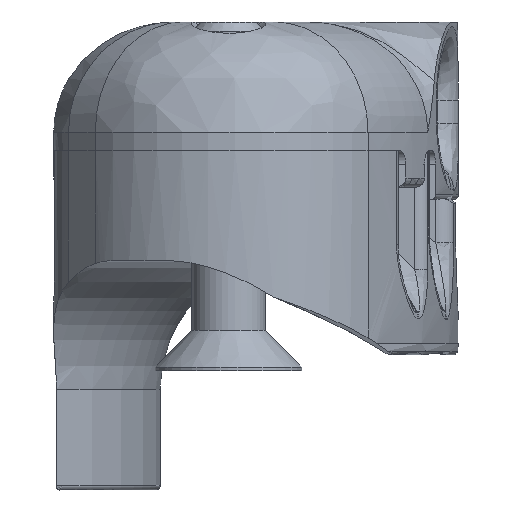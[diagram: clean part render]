
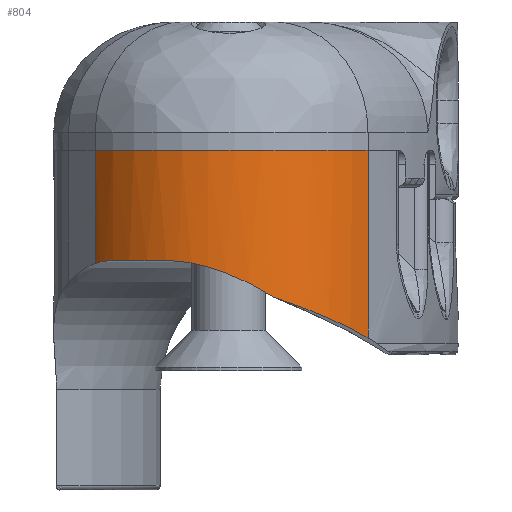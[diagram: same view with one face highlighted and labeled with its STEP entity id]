
A CAD part, front view. The second image highlights one B-rep face of the part: STEP entity #804.
In plain terms, the highlighted cylindrical face has radius 18 mm (diameter 36 mm), a partial arc.
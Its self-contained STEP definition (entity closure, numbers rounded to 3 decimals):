
#216=CYLINDRICAL_SURFACE('',#4523,18.);
#296=ELLIPSE('',#4516,19.029,18.);
#330=LINE('',#6049,#504);
#360=LINE('',#6448,#534);
#504=VECTOR('',#4879,1.);
#534=VECTOR('',#4951,1.);
#804=ADVANCED_FACE('',(#1101),#216,.T.);
#1101=FACE_OUTER_BOUND('',#1352,.T.);
#1352=EDGE_LOOP('',(#2222,#2223,#2224,#2225,#2226,#2227,#2228));
#1552=CIRCLE('',#4372,18.);
#1560=CIRCLE('',#4381,18.);
#2222=ORIENTED_EDGE('',*,*,#3513,.F.);
#2223=ORIENTED_EDGE('',*,*,#3611,.F.);
#2224=ORIENTED_EDGE('',*,*,#3614,.F.);
#2225=ORIENTED_EDGE('',*,*,#3502,.F.);
#2226=ORIENTED_EDGE('',*,*,#3499,.F.);
#2227=ORIENTED_EDGE('',*,*,#3755,.F.);
#2228=ORIENTED_EDGE('',*,*,#3531,.F.);
#3095=VERTEX_POINT('',#5959);
#3096=VERTEX_POINT('',#5966);
#3097=VERTEX_POINT('',#5971);
#3106=VERTEX_POINT('',#5991);
#3107=VERTEX_POINT('',#5993);
#3124=VERTEX_POINT('',#6050);
#3196=VERTEX_POINT('',#6447);
#3499=EDGE_CURVE('',#3095,#3096,#4154,.T.);
#3502=EDGE_CURVE('',#3096,#3097,#1552,.T.);
#3513=EDGE_CURVE('',#3106,#3107,#1560,.T.);
#3531=EDGE_CURVE('',#3107,#3124,#330,.T.);
#3611=EDGE_CURVE('',#3196,#3106,#360,.T.);
#3614=EDGE_CURVE('',#3097,#3196,#4196,.T.);
#3755=EDGE_CURVE('',#3124,#3095,#296,.T.);
#4154=B_SPLINE_CURVE_WITH_KNOTS('',3,(#5960,#5961,#5962,#5963,#5964,#5965),
 .UNSPECIFIED.,.F.,.F.,(4,2,4),(0.,0.5,1.),.UNSPECIFIED.);
#4196=B_SPLINE_CURVE_WITH_KNOTS('',3,(#6455,#6456,#6457,#6458),
 .UNSPECIFIED.,.F.,.F.,(4,4),(0.,1.),.UNSPECIFIED.);
#4372=AXIS2_PLACEMENT_3D('',#5970,#4832,#4833);
#4381=AXIS2_PLACEMENT_3D('',#5992,#4853,#4854);
#4516=AXIS2_PLACEMENT_3D('',#7652,#5196,#5197);
#4523=AXIS2_PLACEMENT_3D('',#7695,#5210,#5211);
#4832=DIRECTION('',(0.,0.,-1.));
#4833=DIRECTION('',(1.,0.,0.));
#4853=DIRECTION('',(0.,0.,1.));
#4854=DIRECTION('',(1.,0.,0.));
#4879=DIRECTION('',(0.,0.,-1.));
#4951=DIRECTION('',(0.,0.,1.));
#5196=DIRECTION('',(-0.259,-0.195,-0.946));
#5197=DIRECTION('',(0.755,0.569,-0.324));
#5210=DIRECTION('',(0.,0.,-1.));
#5211=DIRECTION('',(-1.,0.,0.));
#5959=CARTESIAN_POINT('',(46.814,-42.853,8.524));
#5960=CARTESIAN_POINT('',(46.814,-42.853,8.524));
#5961=CARTESIAN_POINT('',(45.084,-43.354,9.653));
#5962=CARTESIAN_POINT('',(43.199,-43.62,10.604));
#5963=CARTESIAN_POINT('',(39.218,-43.489,12.034));
#5964=CARTESIAN_POINT('',(37.144,-43.082,12.5));
#5965=CARTESIAN_POINT('',(35.16,-42.294,12.5));
#5966=CARTESIAN_POINT('',(35.16,-42.294,12.5));
#5970=CARTESIAN_POINT('',(41.803,-25.564,12.5));
#5971=CARTESIAN_POINT('',(29.379,-38.589,12.5));
#5991=CARTESIAN_POINT('',(27.427,-36.397,24.5));
#5992=CARTESIAN_POINT('',(41.803,-25.564,24.5));
#5993=CARTESIAN_POINT('',(57.159,-34.955,24.5));
#6049=CARTESIAN_POINT('',(57.159,-34.955,26.95));
#6050=CARTESIAN_POINT('',(57.159,-34.955,4.062));
#6447=CARTESIAN_POINT('',(27.427,-36.397,12.191));
#6448=CARTESIAN_POINT('',(27.427,-36.397,26.95));
#6455=CARTESIAN_POINT('',(29.379,-38.589,12.5));
#6456=CARTESIAN_POINT('',(28.661,-37.904,12.5));
#6457=CARTESIAN_POINT('',(28.011,-37.172,12.398));
#6458=CARTESIAN_POINT('',(27.427,-36.397,12.191));
#7652=CARTESIAN_POINT('',(41.803,-25.564,6.329));
#7695=CARTESIAN_POINT('',(41.803,-25.564,26.95));
